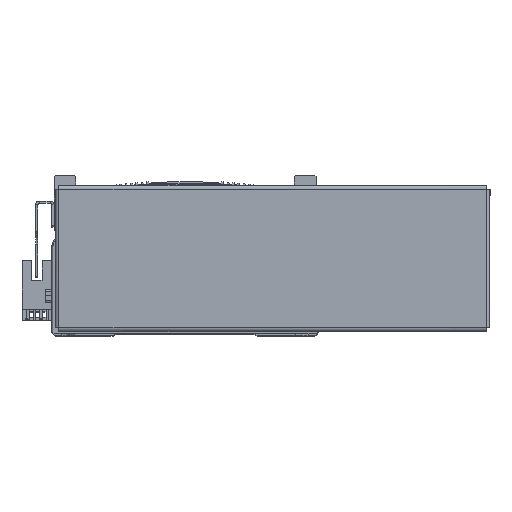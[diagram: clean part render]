
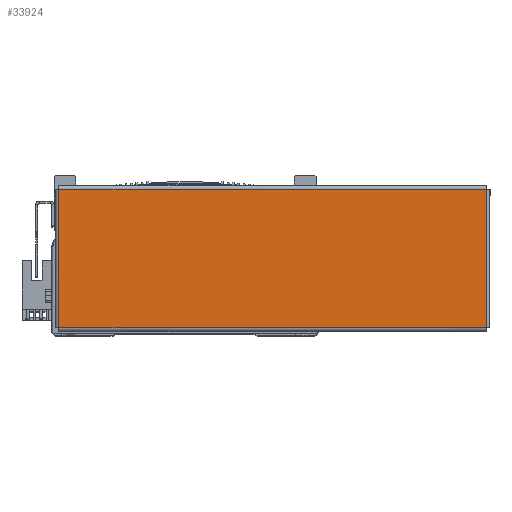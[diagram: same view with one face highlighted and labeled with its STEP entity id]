
A CAD part, top view. The second image highlights one B-rep face of the part: STEP entity #33924.
In plain terms, the highlighted planar face has unit normal (0, 0, 1) as drawn and (0, 0, -1) by its records, which use the part's own axes.
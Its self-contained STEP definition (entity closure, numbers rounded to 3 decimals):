
#9030 = LINE ( 'NONE', #14447, #9031 ) ;
#9031 = VECTOR ( 'NONE', #14481, 1000. ) ;
#9082 = LINE ( 'NONE', #14617, #9100 ) ;
#9100 = VECTOR ( 'NONE', #14662, 1000. ) ;
#9229 = LINE ( 'NONE', #14636, #9358 ) ;
#9358 = VECTOR ( 'NONE', #14639, 1000. ) ;
#14447 = CARTESIAN_POINT ( 'NONE',  ( -97.893, 31.763, -1. ) ) ;
#14481 = DIRECTION ( 'NONE',  ( 1., 0., 0. ) ) ;
#14617 = CARTESIAN_POINT ( 'NONE',  ( 97.863, 31.793, -1. ) ) ;
#14636 = CARTESIAN_POINT ( 'NONE',  ( 97.893, -31.763, -1. ) ) ;
#14639 = DIRECTION ( 'NONE',  ( -1., 0., 0. ) ) ;
#14662 = DIRECTION ( 'NONE',  ( 0., -1., 0. ) ) ;
#14948 = DIRECTION ( 'NONE',  ( 0., 1., 0. ) ) ;
#14988 = CARTESIAN_POINT ( 'NONE',  ( -97.863, -31.793, -1. ) ) ;
#16253 = VECTOR ( 'NONE', #14948, 1000. ) ;
#16289 = LINE ( 'NONE', #14988, #16253 ) ;
#24668 = EDGE_LOOP ( 'NONE', ( #32523, #32615, #32575, #32600 ) ) ;
#26630 = EDGE_CURVE ( 'NONE', #36780, #36687, #9030, .T. ) ;
#26652 = EDGE_CURVE ( 'NONE', #36687, #36449, #9082, .T. ) ;
#26666 = EDGE_CURVE ( 'NONE', #36449, #36770, #9229, .T. ) ;
#26685 = EDGE_CURVE ( 'NONE', #36770, #36780, #16289, .T. ) ;
#29788 = FACE_OUTER_BOUND ( 'NONE', #24668, .T. ) ;
#31905 = PLANE ( 'NONE',  #61873 ) ;
#31912 = CARTESIAN_POINT ( 'NONE',  ( 0., 0., -1. ) ) ;
#31981 = DIRECTION ( 'NONE',  ( 0., 0., 1. ) ) ;
#31993 = DIRECTION ( 'NONE',  ( 1., 0., 0. ) ) ;
#32523 = ORIENTED_EDGE ( 'NONE', *, *, #26652, .T. ) ;
#32575 = ORIENTED_EDGE ( 'NONE', *, *, #26685, .T. ) ;
#32600 = ORIENTED_EDGE ( 'NONE', *, *, #26630, .T. ) ;
#32615 = ORIENTED_EDGE ( 'NONE', *, *, #26666, .T. ) ;
#33924 = ADVANCED_FACE ( 'NONE', ( #29788 ), #31905, .F. ) ;
#36449 = VERTEX_POINT ( 'NONE', #46331 ) ;
#36687 = VERTEX_POINT ( 'NONE', #46500 ) ;
#36770 = VERTEX_POINT ( 'NONE', #46497 ) ;
#36780 = VERTEX_POINT ( 'NONE', #46495 ) ;
#46331 = CARTESIAN_POINT ( 'NONE',  ( 97.863, -31.763, -1. ) ) ;
#46495 = CARTESIAN_POINT ( 'NONE',  ( -97.863, 31.763, -1. ) ) ;
#46497 = CARTESIAN_POINT ( 'NONE',  ( -97.863, -31.763, -1. ) ) ;
#46500 = CARTESIAN_POINT ( 'NONE',  ( 97.863, 31.763, -1. ) ) ;
#61873 = AXIS2_PLACEMENT_3D ( 'NONE', #31912, #31981, #31993 ) ;
